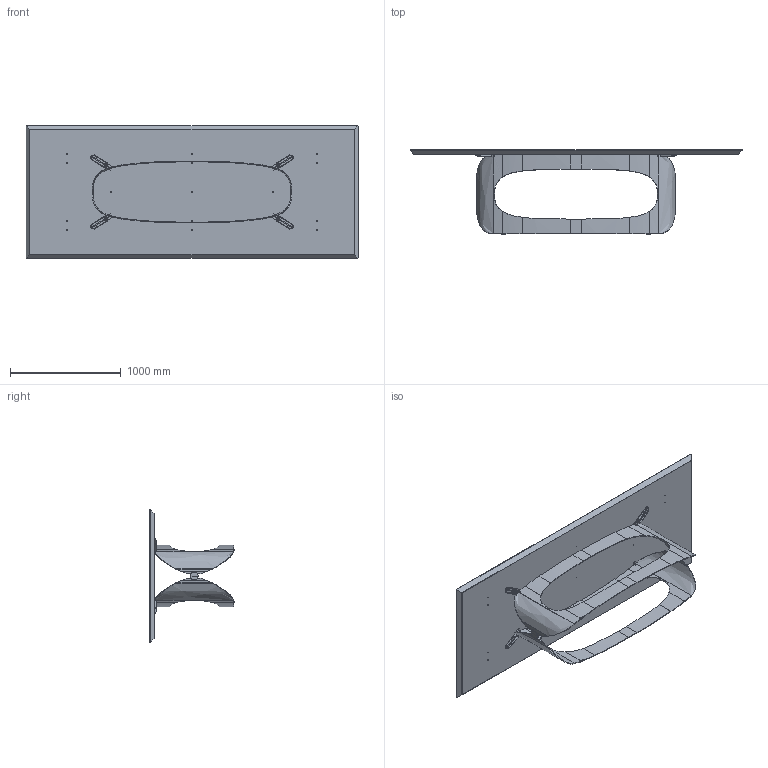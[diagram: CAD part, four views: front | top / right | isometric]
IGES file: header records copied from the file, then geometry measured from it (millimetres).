
Start section: SolidWorks IGES file using analytic representation for surfaces
Global section: file name: Y:\eforma\TECNICO\SOLIDWORKS\E-FORMA\1-TAVOLI\POLIFEMO\02 parts\PO24W_Polifemo_300x120_.IGS; native system: SolidWorks 2022; preprocessor: SolidWorks 2022; author: eforma.tech; date: 240806.161946; units: millimetre
Bounding box: 3000 x 759.97 x 1200 mm (x, y, z)
Volume: 141101385.1 mm3; surface area: 10685420.6 mm2
Topology: 41 solids, 41 shells, 1474 faces, 3910 edges, 2405 vertices
Faces by surface type: revolution 862, plane 412, bspline 200
